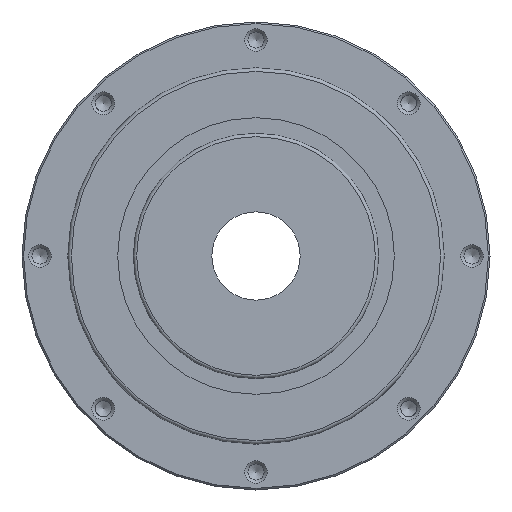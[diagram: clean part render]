
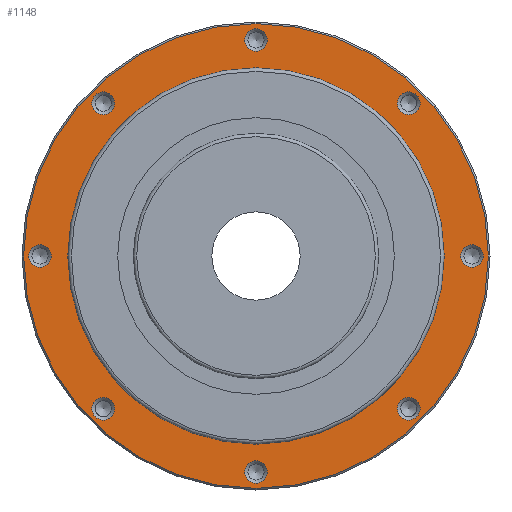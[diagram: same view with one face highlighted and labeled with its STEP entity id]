
A CAD part, left-side view. The second image highlights one B-rep face of the part: STEP entity #1148.
In plain terms, the highlighted planar face has unit normal (-1, 0, 0).
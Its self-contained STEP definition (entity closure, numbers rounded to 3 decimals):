
#58=PLANE('',#1242);
#94=ORIENTED_EDGE('',*,*,#219,.T.);
#95=ORIENTED_EDGE('',*,*,#220,.T.);
#96=ORIENTED_EDGE('',*,*,#221,.T.);
#97=ORIENTED_EDGE('',*,*,#222,.T.);
#98=ORIENTED_EDGE('',*,*,#223,.T.);
#99=ORIENTED_EDGE('',*,*,#224,.T.);
#100=ORIENTED_EDGE('',*,*,#225,.T.);
#101=ORIENTED_EDGE('',*,*,#226,.T.);
#102=ORIENTED_EDGE('',*,*,#227,.T.);
#103=ORIENTED_EDGE('',*,*,#218,.F.);
#218=EDGE_CURVE('',#282,#282,#354,.T.);
#219=EDGE_CURVE('',#283,#283,#355,.T.);
#220=EDGE_CURVE('',#284,#284,#356,.T.);
#221=EDGE_CURVE('',#285,#285,#357,.T.);
#222=EDGE_CURVE('',#286,#286,#358,.T.);
#223=EDGE_CURVE('',#287,#287,#359,.T.);
#224=EDGE_CURVE('',#288,#288,#360,.T.);
#225=EDGE_CURVE('',#289,#289,#361,.T.);
#226=EDGE_CURVE('',#290,#290,#362,.T.);
#227=EDGE_CURVE('',#291,#291,#363,.T.);
#282=VERTEX_POINT('',#1653);
#283=VERTEX_POINT('',#1656);
#284=VERTEX_POINT('',#1658);
#285=VERTEX_POINT('',#1660);
#286=VERTEX_POINT('',#1662);
#287=VERTEX_POINT('',#1664);
#288=VERTEX_POINT('',#1666);
#289=VERTEX_POINT('',#1668);
#290=VERTEX_POINT('',#1670);
#291=VERTEX_POINT('',#1672);
#354=CIRCLE('',#1241,57.5);
#355=CIRCLE('',#1243,3.459);
#356=CIRCLE('',#1244,3.459);
#357=CIRCLE('',#1245,3.459);
#358=CIRCLE('',#1246,3.459);
#359=CIRCLE('',#1247,3.459);
#360=CIRCLE('',#1248,3.459);
#361=CIRCLE('',#1249,3.459);
#362=CIRCLE('',#1250,3.459);
#363=CIRCLE('',#1251,71.);
#422=EDGE_LOOP('',(#94));
#423=EDGE_LOOP('',(#95));
#424=EDGE_LOOP('',(#96));
#425=EDGE_LOOP('',(#97));
#426=EDGE_LOOP('',(#98));
#427=EDGE_LOOP('',(#99));
#428=EDGE_LOOP('',(#100));
#429=EDGE_LOOP('',(#101));
#430=EDGE_LOOP('',(#102));
#431=EDGE_LOOP('',(#103));
#550=FACE_BOUND('',#422,.T.);
#551=FACE_BOUND('',#423,.T.);
#552=FACE_BOUND('',#424,.T.);
#553=FACE_BOUND('',#425,.T.);
#554=FACE_BOUND('',#426,.T.);
#555=FACE_BOUND('',#427,.T.);
#556=FACE_BOUND('',#428,.T.);
#557=FACE_BOUND('',#429,.T.);
#558=FACE_BOUND('',#430,.T.);
#559=FACE_BOUND('',#431,.T.);
#1148=ADVANCED_FACE('',(#550,#551,#552,#553,#554,#555,#556,#557,#558,#559),
#58,.T.);
#1241=AXIS2_PLACEMENT_3D('',#1652,#1409,#1410);
#1242=AXIS2_PLACEMENT_3D('',#1654,#1411,#1412);
#1243=AXIS2_PLACEMENT_3D('',#1655,#1413,#1414);
#1244=AXIS2_PLACEMENT_3D('',#1657,#1415,#1416);
#1245=AXIS2_PLACEMENT_3D('',#1659,#1417,#1418);
#1246=AXIS2_PLACEMENT_3D('',#1661,#1419,#1420);
#1247=AXIS2_PLACEMENT_3D('',#1663,#1421,#1422);
#1248=AXIS2_PLACEMENT_3D('',#1665,#1423,#1424);
#1249=AXIS2_PLACEMENT_3D('',#1667,#1425,#1426);
#1250=AXIS2_PLACEMENT_3D('',#1669,#1427,#1428);
#1251=AXIS2_PLACEMENT_3D('',#1671,#1429,#1430);
#1409=DIRECTION('',(-1.,0.,0.));
#1410=DIRECTION('',(0.,0.,1.));
#1411=DIRECTION('',(-1.,0.,0.));
#1412=DIRECTION('',(0.,0.,1.));
#1413=DIRECTION('',(1.,0.,0.));
#1414=DIRECTION('',(0.,-0.707,0.707));
#1415=DIRECTION('',(1.,0.,0.));
#1416=DIRECTION('',(0.,0.,1.));
#1417=DIRECTION('',(1.,0.,0.));
#1418=DIRECTION('',(0.,0.707,0.707));
#1419=DIRECTION('',(1.,0.,0.));
#1420=DIRECTION('',(0.,1.,0.));
#1421=DIRECTION('',(1.,0.,0.));
#1422=DIRECTION('',(0.,0.707,-0.707));
#1423=DIRECTION('',(1.,0.,0.));
#1424=DIRECTION('',(0.,0.,-1.));
#1425=DIRECTION('',(1.,0.,0.));
#1426=DIRECTION('',(0.,-0.707,-0.707));
#1427=DIRECTION('',(1.,0.,0.));
#1428=DIRECTION('',(0.,-1.,0.));
#1429=DIRECTION('',(-1.,0.,0.));
#1430=DIRECTION('',(0.,0.,1.));
#1652=CARTESIAN_POINT('',(16.,0.,0.));
#1653=CARTESIAN_POINT('',(16.,0.,57.5));
#1654=CARTESIAN_POINT('',(16.,0.,57.5));
#1655=CARTESIAN_POINT('',(16.,46.669,46.669));
#1656=CARTESIAN_POINT('',(16.,44.224,49.115));
#1657=CARTESIAN_POINT('',(16.,66.,0.));
#1658=CARTESIAN_POINT('',(16.,66.,3.458));
#1659=CARTESIAN_POINT('',(16.,46.669,-46.669));
#1660=CARTESIAN_POINT('',(16.,49.115,-44.224));
#1661=CARTESIAN_POINT('',(16.,0.,-66.));
#1662=CARTESIAN_POINT('',(16.,3.459,-66.));
#1663=CARTESIAN_POINT('',(16.,-46.669,-46.669));
#1664=CARTESIAN_POINT('',(16.,-44.224,-49.115));
#1665=CARTESIAN_POINT('',(16.,-66.,0.));
#1666=CARTESIAN_POINT('',(16.,-66.,-3.459));
#1667=CARTESIAN_POINT('',(16.,-46.669,46.669));
#1668=CARTESIAN_POINT('',(16.,-49.115,44.224));
#1669=CARTESIAN_POINT('',(16.,0.,66.));
#1670=CARTESIAN_POINT('',(16.,-3.459,66.));
#1671=CARTESIAN_POINT('',(16.,0.,0.));
#1672=CARTESIAN_POINT('',(16.,0.,71.));
